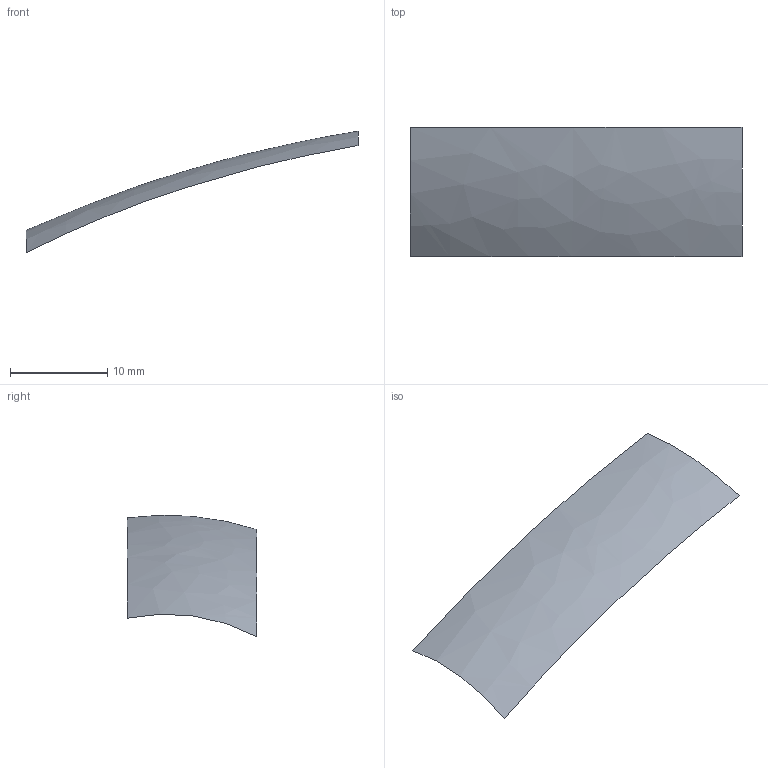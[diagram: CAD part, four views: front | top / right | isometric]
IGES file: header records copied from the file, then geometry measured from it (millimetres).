
Start section: SolidWorks IGES file using analytic representation for surfaces
Global section: file name: C:\Dokumente und Einstellungen\LutzF\Desktop\kurva.IGS; native system: SolidWorks 2009; preprocessor: SolidWorks 2009; author: LutzF; date: 090615.143906; units: millimetre
Bounding box: 34.12 x 13.32 x 12.48 mm (x, y, z)
Surface area: 484.3 mm2 (no closed solid volume)
Topology: 0 solids, 0 shells, 1 faces, 9 edges, 9 vertices
Faces by surface type: bspline 1
